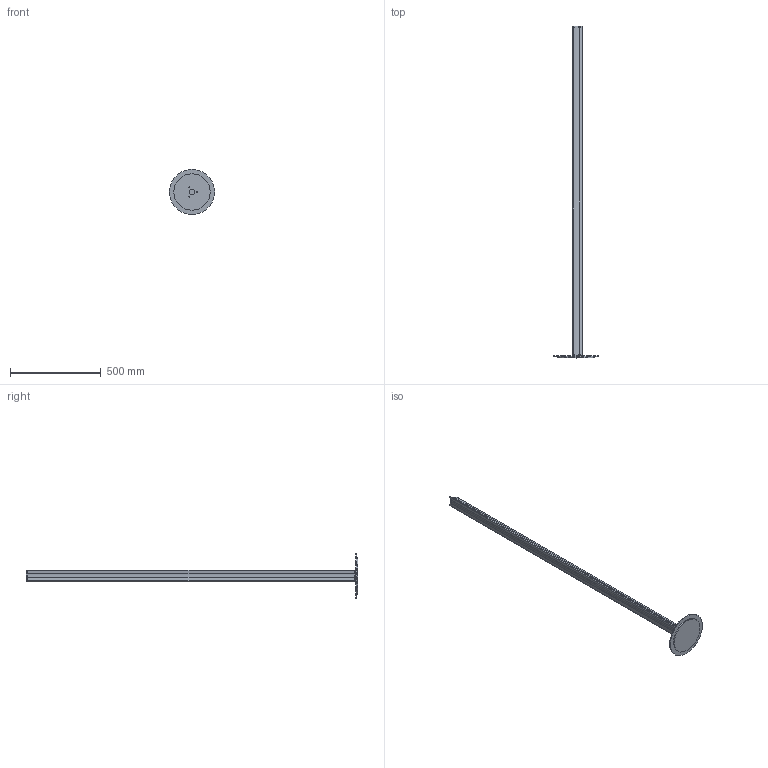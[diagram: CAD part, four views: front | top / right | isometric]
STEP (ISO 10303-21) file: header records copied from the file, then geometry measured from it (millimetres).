
FILE_DESCRIPTION (( 'STEP AP203' ), '1' );
FILE_NAME ('315_STD_F_LD_3D.STEP', '2021-09-21T14:14:07', ( '' ), ( '' ), 'SwSTEP 2.0', 'SolidWorks 2021', '' );
FILE_SCHEMA (( 'CONFIG_CONTROL_DESIGN' ));
Length unit declared in the file: millimetre
Products named in the file (4): TAPPO SUP_FINITO; BASE_FINITO; 315_STD_F_LD_3D; ASTA__FINITO
Assembly tree (4 placements, depth 2):
  315_STD_F_LD_3D
    BASE_FINITO
    TAPPO SUP_FINITO  x2
    ASTA__FINITO
Bounding box: 250 x 1831 x 250 mm (x, y, z)
Volume: 3304988.9 mm3; surface area: 535224.7 mm2
Topology: 5 solids, 5 shells, 72 faces, 184 edges, 122 vertices
Faces by surface type: plane 46, cylinder 24, cone 2
Full cylindrical faces by diameter (mm): 4.5 x3, 30 x1, 200 x1, 250 x1
Entity records: 2174 total; most frequent: DIRECTION 308, CARTESIAN_POINT 303, ORIENTED_EDGE 280, EDGE_CURVE 140, AXIS2_PLACEMENT_3D 103, VECTOR 102, LINE 102, VERTEX_POINT 98
